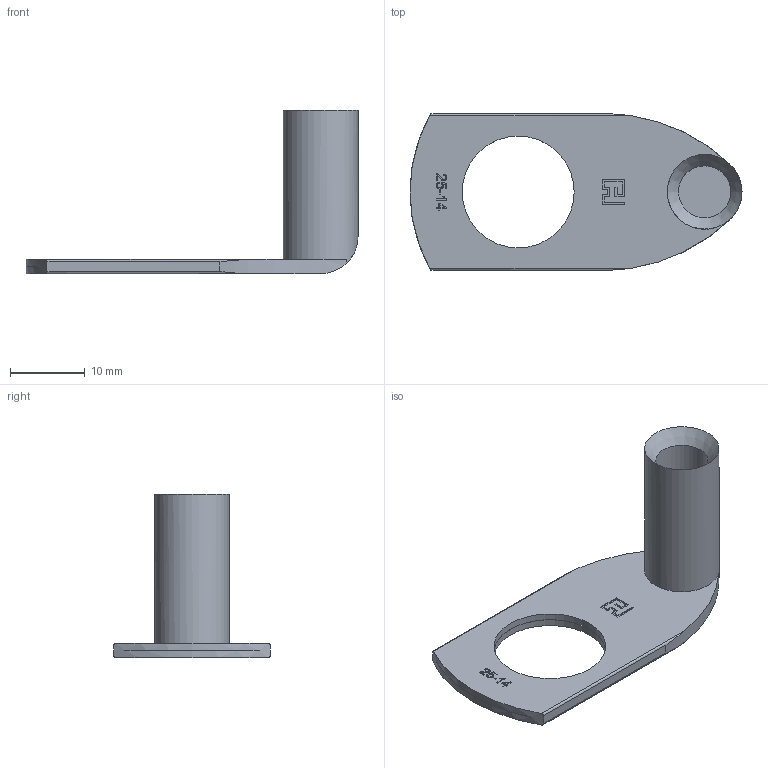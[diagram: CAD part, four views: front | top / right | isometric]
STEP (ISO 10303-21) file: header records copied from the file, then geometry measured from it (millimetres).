
FILE_DESCRIPTION(('FreeCAD Model'),'2;1');
FILE_NAME('Open CASCADE Shape Model','2022-02-03T15:44:34',( 'Frederic Herrmann'),('KEB Automation KG'), 'Open CASCADE STEP processor 7.5','FreeCAD','Unknown');
FILE_SCHEMA(('CONFIG_CONTROL_DESIGN','SHAPE_APPEARANCE_LAYER_MIM'));
Length unit declared in the file: millimetre
Products named in the file (1): 44R14 M14
Bounding box: 44.5 x 21 x 21.91 mm (x, y, z)
Volume: 2141.4 mm3; surface area: 2955.2 mm2
Topology: 1 solids, 1 shells, 124 faces, 344 edges, 230 vertices
Faces by surface type: plane 73, extrusion 37, cylinder 12, torus 1, cone 1
Full cylindrical faces by diameter (mm): 7 x1, 10 x1, 15 x2
Entity records: 9571 total; most frequent: CARTESIAN_POINT 3235, DIRECTION 912, ORIENTED_EDGE 688, PCURVE 688, DEFINITIONAL_REPRESENTATION 688, VECTOR 677, LINE 640, B_SPLINE_CURVE_WITH_KNOTS 389
